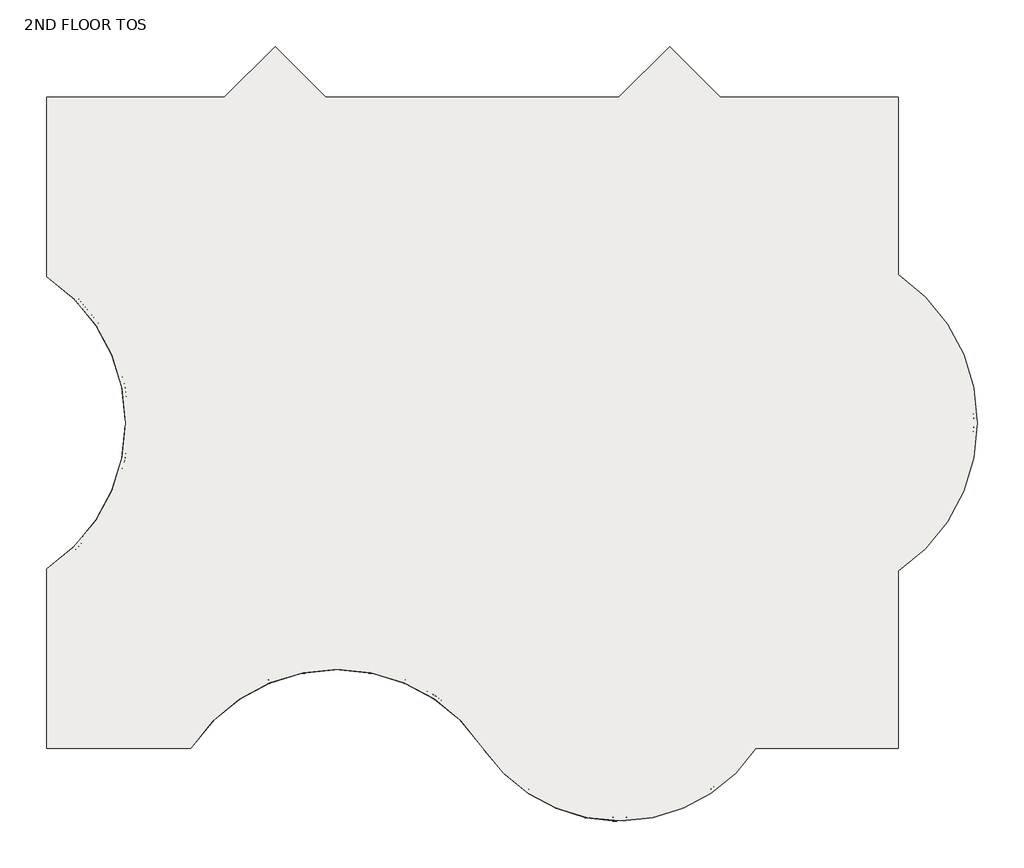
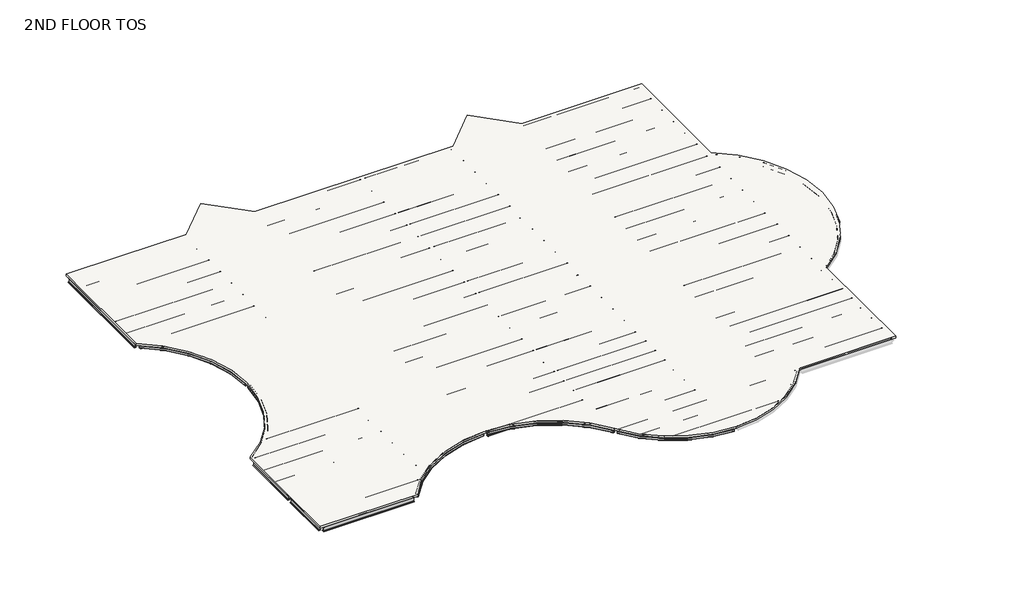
# One storey, part 1 of 2: 86 beams, 1 slab.
"""IFC4 building model written with IfcOpenShell, lengths in millimetres."""

from ifc_helpers import new_model, si_unit, frame, origin, place, context, project, spatial, polyline, circle_curve, transform, mapped, element, save
from ifc_brep_helpers import plane_surface, cylinder_surface, revolved_surface, advanced_brep
from components import m_hss_square_hss203_2x203_2x9_5_914ff4eb, m_hss_square_hss203_2x203_2x9_5_0e3d8e6e, m_hss_square_hss203_2x203_2x9_5_16dc1c03, m_hss_square_hss203_2x203_2x9_5_18346204, m_hss_square_hss203_2x203_2x9_5_d5f1e8c4, ub_universal_beams_ub254x102x28_4e7f3726, ub_universal_beams_ub305x165x40_c4d0385b, ub_universal_beams_ub305x165x40_d3abc31d, ub_universal_beams_ub305x165x40_0c73730f, ub_universal_beams_ub305x165x40_2a963f0c, ub_universal_beams_ub305x165x40_0a5f2f96, ub_universal_beams_ub305x165x40_d1f7c369, ub_universal_beams_ub305x165x40_83d7b7d5, ub_universal_beams_ub305x165x40_729a4ea5, ub_universal_beams_ub305x165x40_71dfa851, ub_universal_beams_ub305x165x40_619b5398, ub_universal_beams_ub305x165x40_c3492db1, ub_universal_beams_ub305x165x40_8f1c350d, ub_universal_beams_ub305x165x40_3afb5f90, ub_universal_beams_ub305x165x40_767d1929, ub_universal_beams_ub305x165x40_5941ca45, ub_universal_beams_ub356x171x51_ef72dcdd, ub_universal_beams_ub356x171x51_7f80702c, ub_universal_beams_ub356x171x51_dfc36663, ub_universal_beams_ub356x171x51_405a853e, ub_universal_beams_ub356x171x51_e47b7055, ub_universal_beams_ub356x171x51_e97f8d2e, ub_universal_beams_ub356x171x51_11d6b780, ub_universal_beams_ub356x171x51_76b2d20b, ub_universal_beams_ub356x171x51_145ecd4b, ub_universal_beams_ub356x171x51_c7dff8d2, ub_universal_beams_ub356x171x51_834c6e34, ub_universal_beams_ub356x171x51_a38b99de, ub_universal_beams_ub356x171x51_d8f4cdde, ub_universal_beams_ub356x171x51_8094f821, ub_universal_beams_ub356x171x51_e661f2e4, ub_universal_beams_ub356x171x51_3ee91673, ub_universal_beams_ub356x171x51_a871b283, ub_universal_beams_ub356x171x51_741bae58

model = new_model("IFC4")

# Units and contexts
model_context = context("Model", 3, world=origin())
ifc_project = project(units=[si_unit("LENGTHUNIT", "METRE", prefix="MILLI")], contexts=[model_context])

# Site, building, storey
site = spatial("IfcSite", under=ifc_project)
building = spatial("IfcBuilding", under=site)
storey = spatial("IfcBuildingStorey", under=building, Name="2ND FLOOR TOS", Elevation=8991.6)

# Beams
placement = place(None, origin())
m_hss_square_hss203_2x203_2x9_5_shape = m_hss_square_hss203_2x203_2x9_5_914ff4eb(model_context)
element("IfcBeam", 1, ObjectType="M_HSS Square : HSS203.2X203.2X9.5", at=placement, inside=storey, context=model_context, shape_type="MappedRepresentation", body=[
    mapped(m_hss_square_hss203_2x203_2x9_5_shape, transform((22710.575, 155.575, 8890.1), x_axis=(-0.552849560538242, 0.8332810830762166, 0.0), y_axis=(-0.8332810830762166, -0.552849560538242, 0.0), z_axis=(0.0, 0.0, 1.0))),
])
m_hss_square_hss203_2x203_2x9_5_2_shape = m_hss_square_hss203_2x203_2x9_5_0e3d8e6e(model_context)
element("IfcBeam", 2, ObjectType="M_HSS Square : HSS203.2X203.2X9.5", at=placement, inside=storey, context=model_context, shape_type="MappedRepresentation", body=[
    mapped(m_hss_square_hss203_2x203_2x9_5_2_shape, transform((155.575, 9299.575, 8890.1), x_axis=(0.8332810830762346, 0.5528495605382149, 0.0), y_axis=(-0.5528495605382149, 0.8332810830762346, 0.0), z_axis=(0.0, 0.0, 1.0))),
])
m_hss_square_hss203_2x203_2x9_5_3_shape = m_hss_square_hss203_2x203_2x9_5_16dc1c03(model_context)
element("IfcBeam", 3, ObjectType="M_HSS Square : HSS203.2X203.2X9.5", at=placement, inside=storey, context=model_context, shape_type="MappedRepresentation", body=[
    mapped(m_hss_square_hss203_2x203_2x9_5_3_shape, transform((155.575, 24539.575, 8890.1), x_axis=(0.8332810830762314, -0.5528495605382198, 0.0), y_axis=(0.5528495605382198, 0.8332810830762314, 0.0), z_axis=(0.0, 0.0, 1.0))),
])
m_hss_square_hss203_2x203_2x9_5_4_shape = m_hss_square_hss203_2x203_2x9_5_18346204(model_context)
element("IfcBeam", 4, ObjectType="M_HSS Square : HSS203.2X203.2X9.5", at=placement, inside=storey, context=model_context, shape_type="MappedRepresentation", body=[
    mapped(m_hss_square_hss203_2x203_2x9_5_4_shape, transform((29734.7266693, -3601.398624, 8890.1), x_axis=(-0.9999968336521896, -0.0025164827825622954, 0.0), y_axis=(0.0025164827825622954, -0.9999968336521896, 0.0), z_axis=(0.0, 0.0, 1.0))),
])
m_hss_square_hss203_2x203_2x9_5_5_shape = m_hss_square_hss203_2x203_2x9_5_d5f1e8c4(model_context)
element("IfcBeam", 5, ObjectType="M_HSS Square : HSS203.2X203.2X9.5", at=placement, inside=storey, context=model_context, shape_type="MappedRepresentation", body=[
    mapped(m_hss_square_hss203_2x203_2x9_5_5_shape, transform((15096.4572854, 4244.5731081, 8890.1), x_axis=(-0.9999997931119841, 0.0006432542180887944, 0.0), y_axis=(-0.0006432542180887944, -0.9999997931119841, 0.0), z_axis=(0.0, 0.0, 1.0))),
])
ub_universal_beams_ub254x102x28_shape = ub_universal_beams_ub254x102x28_4e7f3726(model_context)
element("IfcBeam", 6, ObjectType="UB-Universal Beams : UB254x102x28", at=placement, inside=storey, context=model_context, shape_type="MappedRepresentation", body=[
    mapped(ub_universal_beams_ub254x102x28_shape, transform((9299.575, 3210.915913, 8861.4), x_axis=(0.0, -1.0, 0.0), y_axis=(1.0, 0.0, 0.0), z_axis=(0.0, 0.0, 1.0))),
])
ub_universal_beams_ub305x165x40_shape = ub_universal_beams_ub305x165x40_c4d0385b(model_context)
element("IfcBeam", 7, ObjectType="UB-Universal Beams : UB305x165x40", at=placement, inside=storey, context=model_context, shape_type="MappedRepresentation", body=[
    mapped(ub_universal_beams_ub305x165x40_shape, transform((4727.575, 30635.575, 8839.9), x_axis=(1.0, 0.0, 0.0), y_axis=(0.0, 1.0, 0.0), z_axis=(0.0, 0.0, 1.0))),
])
element("IfcBeam", 8, ObjectType="UB-Universal Beams : UB305x165x40", at=placement, inside=storey, context=model_context, shape_type="MappedRepresentation", body=[
    mapped(ub_universal_beams_ub305x165x40_shape, transform((4727.575, 29111.575, 8839.9), x_axis=(1.0, 0.0, 0.0), y_axis=(0.0, 1.0, 0.0), z_axis=(0.0, 0.0, 1.0))),
])
element("IfcBeam", 9, ObjectType="UB-Universal Beams : UB305x165x40", at=placement, inside=storey, context=model_context, shape_type="MappedRepresentation", body=[
    mapped(ub_universal_beams_ub305x165x40_shape, transform((4727.575, 27587.575, 8839.9), x_axis=(1.0, 0.0, 0.0), y_axis=(0.0, 1.0, 0.0), z_axis=(0.0, 0.0, 1.0))),
])
element("IfcBeam", 10, ObjectType="UB-Universal Beams : UB305x165x40", at=placement, inside=storey, context=model_context, shape_type="MappedRepresentation", body=[
    mapped(ub_universal_beams_ub305x165x40_shape, transform((4727.575, 26063.575, 8839.9), x_axis=(1.0, 0.0, 0.0), y_axis=(0.0, 1.0, 0.0), z_axis=(0.0, 0.0, 1.0))),
])
element("IfcBeam", 11, ObjectType="UB-Universal Beams : UB305x165x40", at=placement, inside=storey, context=model_context, shape_type="MappedRepresentation", body=[
    mapped(ub_universal_beams_ub305x165x40_shape, transform((4727.575, 4727.575, 8839.9), x_axis=(-1.0, 0.0, 0.0), y_axis=(0.0, -1.0, 0.0), z_axis=(0.0, 0.0, 1.0))),
])
element("IfcBeam", 12, ObjectType="UB-Universal Beams : UB305x165x40", at=placement, inside=storey, context=model_context, shape_type="MappedRepresentation", body=[
    mapped(ub_universal_beams_ub305x165x40_shape, transform((4727.575, 6251.575, 8839.9), x_axis=(-1.0, 0.0, 0.0), y_axis=(0.0, -1.0, 0.0), z_axis=(0.0, 0.0, 1.0))),
])
element("IfcBeam", 13, ObjectType="UB-Universal Beams : UB305x165x40", at=placement, inside=storey, context=model_context, shape_type="MappedRepresentation", body=[
    mapped(ub_universal_beams_ub305x165x40_shape, transform((4727.575, 7775.575, 8839.9), x_axis=(-1.0, 0.0, 0.0), y_axis=(0.0, -1.0, 0.0), z_axis=(0.0, 0.0, 1.0))),
])
ub_universal_beams_ub305x165x40_2_shape = ub_universal_beams_ub305x165x40_d3abc31d(model_context)
element("IfcBeam", 14, ObjectType="UB-Universal Beams : UB305x165x40", at=placement, inside=storey, context=model_context, shape_type="MappedRepresentation", body=[
    mapped(ub_universal_beams_ub305x165x40_2_shape, transform((11885.575, 28938.325, 8839.9), x_axis=(1.0, 0.0, 0.0), y_axis=(0.0, 1.0, 0.0), z_axis=(0.0, 0.0, 1.0))),
])
element("IfcBeam", 15, ObjectType="UB-Universal Beams : UB305x165x40", at=placement, inside=storey, context=model_context, shape_type="MappedRepresentation", body=[
    mapped(ub_universal_beams_ub305x165x40_2_shape, transform((11885.575, 27472.075, 8839.9), x_axis=(1.0, 0.0, 0.0), y_axis=(0.0, 1.0, 0.0), z_axis=(0.0, 0.0, 1.0))),
])
element("IfcBeam", 16, ObjectType="UB-Universal Beams : UB305x165x40", at=placement, inside=storey, context=model_context, shape_type="MappedRepresentation", body=[
    mapped(ub_universal_beams_ub305x165x40_2_shape, transform((11885.575, 26005.825, 8839.9), x_axis=(1.0, 0.0, 0.0), y_axis=(0.0, 1.0, 0.0), z_axis=(0.0, 0.0, 1.0))),
])
element("IfcBeam", 17, ObjectType="UB-Universal Beams : UB305x165x40", at=placement, inside=storey, context=model_context, shape_type="MappedRepresentation", body=[
    mapped(ub_universal_beams_ub305x165x40_2_shape, transform((11885.575, 23015.575, 8839.9), x_axis=(1.0, 0.0, 0.0), y_axis=(0.0, 1.0, 0.0), z_axis=(0.0, 0.0, 1.0))),
])
element("IfcBeam", 18, ObjectType="UB-Universal Beams : UB305x165x40", at=placement, inside=storey, context=model_context, shape_type="MappedRepresentation", body=[
    mapped(ub_universal_beams_ub305x165x40_2_shape, transform((11885.575, 21491.575, 8839.9), x_axis=(1.0, 0.0, 0.0), y_axis=(0.0, 1.0, 0.0), z_axis=(0.0, 0.0, 1.0))),
])
element("IfcBeam", 19, ObjectType="UB-Universal Beams : UB305x165x40", at=placement, inside=storey, context=model_context, shape_type="MappedRepresentation", body=[
    mapped(ub_universal_beams_ub305x165x40_2_shape, transform((11885.575, 19967.575, 8839.9), x_axis=(1.0, 0.0, 0.0), y_axis=(0.0, 1.0, 0.0), z_axis=(0.0, 0.0, 1.0))),
])
element("IfcBeam", 20, ObjectType="UB-Universal Beams : UB305x165x40", at=placement, inside=storey, context=model_context, shape_type="MappedRepresentation", body=[
    mapped(ub_universal_beams_ub305x165x40_2_shape, transform((11885.575, 18443.575, 8839.9), x_axis=(1.0, 0.0, 0.0), y_axis=(0.0, 1.0, 0.0), z_axis=(0.0, 0.0, 1.0))),
])
element("IfcBeam", 21, ObjectType="UB-Universal Beams : UB305x165x40", at=placement, inside=storey, context=model_context, shape_type="MappedRepresentation", body=[
    mapped(ub_universal_beams_ub305x165x40_2_shape, transform((11885.575, 15395.575, 8839.9), x_axis=(1.0, 0.0, 0.0), y_axis=(0.0, 1.0, 0.0), z_axis=(0.0, 0.0, 1.0))),
])
element("IfcBeam", 22, ObjectType="UB-Universal Beams : UB305x165x40", at=placement, inside=storey, context=model_context, shape_type="MappedRepresentation", body=[
    mapped(ub_universal_beams_ub305x165x40_2_shape, transform((11885.575, 13871.575, 8839.9), x_axis=(1.0, 0.0, 0.0), y_axis=(0.0, 1.0, 0.0), z_axis=(0.0, 0.0, 1.0))),
])
element("IfcBeam", 23, ObjectType="UB-Universal Beams : UB305x165x40", at=placement, inside=storey, context=model_context, shape_type="MappedRepresentation", body=[
    mapped(ub_universal_beams_ub305x165x40_2_shape, transform((11885.575, 12347.575, 8839.9), x_axis=(1.0, 0.0, 0.0), y_axis=(0.0, 1.0, 0.0), z_axis=(0.0, 0.0, 1.0))),
])
element("IfcBeam", 24, ObjectType="UB-Universal Beams : UB305x165x40", at=placement, inside=storey, context=model_context, shape_type="MappedRepresentation", body=[
    mapped(ub_universal_beams_ub305x165x40_2_shape, transform((11885.575, 10823.575, 8839.9), x_axis=(1.0, 0.0, 0.0), y_axis=(0.0, 1.0, 0.0), z_axis=(0.0, 0.0, 1.0))),
])
element("IfcBeam", 25, ObjectType="UB-Universal Beams : UB305x165x40", at=placement, inside=storey, context=model_context, shape_type="MappedRepresentation", body=[
    mapped(ub_universal_beams_ub305x165x40_2_shape, transform((11885.575, 5026.1840956, 8839.9), x_axis=(-1.0, 0.0, 0.0), y_axis=(0.0, -1.0, 0.0), z_axis=(0.0, 0.0, 1.0))),
])
element("IfcBeam", 26, ObjectType="UB-Universal Beams : UB305x165x40", at=placement, inside=storey, context=model_context, shape_type="MappedRepresentation", body=[
    mapped(ub_universal_beams_ub305x165x40_2_shape, transform((11885.575, 6450.6477304, 8839.9), x_axis=(-1.0, 0.0, 0.0), y_axis=(0.0, -1.0, 0.0), z_axis=(0.0, 0.0, 1.0))),
])
element("IfcBeam", 27, ObjectType="UB-Universal Beams : UB305x165x40", at=placement, inside=storey, context=model_context, shape_type="MappedRepresentation", body=[
    mapped(ub_universal_beams_ub305x165x40_2_shape, transform((11885.575, 7875.1113652, 8839.9), x_axis=(-1.0, 0.0, 0.0), y_axis=(0.0, -1.0, 0.0), z_axis=(0.0, 0.0, 1.0))),
])
ub_universal_beams_ub305x165x40_3_shape = ub_universal_beams_ub305x165x40_0c73730f(model_context)
element("IfcBeam", 28, ObjectType="UB-Universal Beams : UB305x165x40", at=placement, inside=storey, context=model_context, shape_type="MappedRepresentation", body=[
    mapped(ub_universal_beams_ub305x165x40_3_shape, transform((18591.075, 5492.5943214, 8839.9), x_axis=(-1.0, 0.0, 0.0), y_axis=(0.0, -1.0, 0.0), z_axis=(0.0, 0.0, 1.0))),
])
element("IfcBeam", 29, ObjectType="UB-Universal Beams : UB305x165x40", at=placement, inside=storey, context=model_context, shape_type="MappedRepresentation", body=[
    mapped(ub_universal_beams_ub305x165x40_3_shape, transform((18591.075, 6761.5878809, 8839.9), x_axis=(-1.0, 0.0, 0.0), y_axis=(0.0, -1.0, 0.0), z_axis=(0.0, 0.0, 1.0))),
])
element("IfcBeam", 30, ObjectType="UB-Universal Beams : UB305x165x40", at=placement, inside=storey, context=model_context, shape_type="MappedRepresentation", body=[
    mapped(ub_universal_beams_ub305x165x40_3_shape, transform((18591.075, 8030.5814405, 8839.9), x_axis=(-1.0, 0.0, 0.0), y_axis=(0.0, -1.0, 0.0), z_axis=(0.0, 0.0, 1.0))),
])
element("IfcBeam", 31, ObjectType="UB-Universal Beams : UB305x165x40", at=placement, inside=storey, context=model_context, shape_type="MappedRepresentation", body=[
    mapped(ub_universal_beams_ub305x165x40_3_shape, transform((18591.075, 15395.575, 8839.9), x_axis=(1.0, 0.0, 0.0), y_axis=(0.0, 1.0, 0.0), z_axis=(0.0, 0.0, 1.0))),
])
element("IfcBeam", 32, ObjectType="UB-Universal Beams : UB305x165x40", at=placement, inside=storey, context=model_context, shape_type="MappedRepresentation", body=[
    mapped(ub_universal_beams_ub305x165x40_3_shape, transform((18591.075, 13871.575, 8839.9), x_axis=(1.0, 0.0, 0.0), y_axis=(0.0, 1.0, 0.0), z_axis=(0.0, 0.0, 1.0))),
])
element("IfcBeam", 33, ObjectType="UB-Universal Beams : UB305x165x40", at=placement, inside=storey, context=model_context, shape_type="MappedRepresentation", body=[
    mapped(ub_universal_beams_ub305x165x40_3_shape, transform((18591.075, 12347.575, 8839.9), x_axis=(1.0, 0.0, 0.0), y_axis=(0.0, 1.0, 0.0), z_axis=(0.0, 0.0, 1.0))),
])
element("IfcBeam", 34, ObjectType="UB-Universal Beams : UB305x165x40", at=placement, inside=storey, context=model_context, shape_type="MappedRepresentation", body=[
    mapped(ub_universal_beams_ub305x165x40_3_shape, transform((18591.075, 10823.575, 8839.9), x_axis=(1.0, 0.0, 0.0), y_axis=(0.0, 1.0, 0.0), z_axis=(0.0, 0.0, 1.0))),
])
ub_universal_beams_ub305x165x40_4_shape = ub_universal_beams_ub305x165x40_2a963f0c(model_context)
element("IfcBeam", 35, ObjectType="UB-Universal Beams : UB305x165x40", at=placement, inside=storey, context=model_context, shape_type="MappedRepresentation", body=[
    mapped(ub_universal_beams_ub305x165x40_4_shape, transform((26211.075, 15395.575, 8839.9), x_axis=(1.0, 0.0, 0.0), y_axis=(0.0, 1.0, 0.0), z_axis=(0.0, 0.0, 1.0))),
])
element("IfcBeam", 36, ObjectType="UB-Universal Beams : UB305x165x40", at=placement, inside=storey, context=model_context, shape_type="MappedRepresentation", body=[
    mapped(ub_universal_beams_ub305x165x40_4_shape, transform((26211.075, 13871.575, 8839.9), x_axis=(1.0, 0.0, 0.0), y_axis=(0.0, 1.0, 0.0), z_axis=(0.0, 0.0, 1.0))),
])
element("IfcBeam", 37, ObjectType="UB-Universal Beams : UB305x165x40", at=placement, inside=storey, context=model_context, shape_type="MappedRepresentation", body=[
    mapped(ub_universal_beams_ub305x165x40_4_shape, transform((26211.075, 12347.575, 8839.9), x_axis=(1.0, 0.0, 0.0), y_axis=(0.0, 1.0, 0.0), z_axis=(0.0, 0.0, 1.0))),
])
element("IfcBeam", 38, ObjectType="UB-Universal Beams : UB305x165x40", at=placement, inside=storey, context=model_context, shape_type="MappedRepresentation", body=[
    mapped(ub_universal_beams_ub305x165x40_4_shape, transform((26211.075, 10823.575, 8839.9), x_axis=(1.0, 0.0, 0.0), y_axis=(0.0, 1.0, 0.0), z_axis=(0.0, 0.0, 1.0))),
])
element("IfcBeam", 39, ObjectType="UB-Universal Beams : UB305x165x40", at=placement, inside=storey, context=model_context, shape_type="MappedRepresentation", body=[
    mapped(ub_universal_beams_ub305x165x40_4_shape, transform((26211.075, 5508.325, 8839.9), x_axis=(-1.0, 0.0, 0.0), y_axis=(0.0, -1.0, 0.0), z_axis=(0.0, 0.0, 1.0))),
])
element("IfcBeam", 40, ObjectType="UB-Universal Beams : UB305x165x40", at=placement, inside=storey, context=model_context, shape_type="MappedRepresentation", body=[
    mapped(ub_universal_beams_ub305x165x40_4_shape, transform((26211.075, 6772.075, 8839.9), x_axis=(-1.0, 0.0, 0.0), y_axis=(0.0, -1.0, 0.0), z_axis=(0.0, 0.0, 1.0))),
])
element("IfcBeam", 41, ObjectType="UB-Universal Beams : UB305x165x40", at=placement, inside=storey, context=model_context, shape_type="MappedRepresentation", body=[
    mapped(ub_universal_beams_ub305x165x40_4_shape, transform((26211.075, 8035.825, 8839.9), x_axis=(-1.0, 0.0, 0.0), y_axis=(0.0, -1.0, 0.0), z_axis=(0.0, 0.0, 1.0))),
])
element("IfcBeam", 42, ObjectType="UB-Universal Beams : UB305x165x40", at=placement, inside=storey, context=model_context, shape_type="MappedRepresentation", body=[
    mapped(ub_universal_beams_ub305x165x40_4_shape, transform((26211.075, 1518.575, 8839.9), x_axis=(-1.0, 0.0, 0.0), y_axis=(0.0, -1.0, 0.0), z_axis=(0.0, 0.0, 1.0))),
])
element("IfcBeam", 43, ObjectType="UB-Universal Beams : UB305x165x40", at=placement, inside=storey, context=model_context, shape_type="MappedRepresentation", body=[
    mapped(ub_universal_beams_ub305x165x40_4_shape, transform((26211.075, 2881.575, 8839.9), x_axis=(-1.0, 0.0, 0.0), y_axis=(0.0, -1.0, 0.0), z_axis=(0.0, 0.0, 1.0))),
])
ub_universal_beams_ub305x165x40_5_shape = ub_universal_beams_ub305x165x40_0a5f2f96(model_context)
element("IfcBeam", 44, ObjectType="UB-Universal Beams : UB305x165x40", at=placement, inside=storey, context=model_context, shape_type="MappedRepresentation", body=[
    mapped(ub_universal_beams_ub305x165x40_5_shape, transform((29713.575, -2349.0918253, 8839.9), x_axis=(-1.0, 0.0, 0.0), y_axis=(0.0, -1.0, 0.0), z_axis=(0.0, 0.0, 1.0))),
])
ub_universal_beams_ub305x165x40_6_shape = ub_universal_beams_ub305x165x40_d1f7c369(model_context)
element("IfcBeam", 45, ObjectType="UB-Universal Beams : UB305x165x40", at=placement, inside=storey, context=model_context, shape_type="MappedRepresentation", body=[
    mapped(ub_universal_beams_ub305x165x40_6_shape, transform((29713.575, -1096.7584126, 8839.9), x_axis=(-1.0, 0.0, 0.0), y_axis=(0.0, -1.0, 0.0), z_axis=(0.0, 0.0, 1.0))),
])
ub_universal_beams_ub305x165x40_7_shape = ub_universal_beams_ub305x165x40_83d7b7d5(model_context)
element("IfcBeam", 46, ObjectType="UB-Universal Beams : UB305x165x40", at=placement, inside=storey, context=model_context, shape_type="MappedRepresentation", body=[
    mapped(ub_universal_beams_ub305x165x40_7_shape, transform((22157.3041106, 1518.575, 8839.9), x_axis=(-1.0, 0.0, 0.0), y_axis=(0.0, -1.0, 0.0), z_axis=(0.0, 0.0, 1.0))),
])
ub_universal_beams_ub305x165x40_8_shape = ub_universal_beams_ub305x165x40_729a4ea5(model_context)
element("IfcBeam", 47, ObjectType="UB-Universal Beams : UB305x165x40", at=placement, inside=storey, context=model_context, shape_type="MappedRepresentation", body=[
    mapped(ub_universal_beams_ub305x165x40_8_shape, transform((21302.1545844, 2881.575, 8839.9), x_axis=(-1.0, 0.0, 0.0), y_axis=(0.0, -1.0, 0.0), z_axis=(0.0, 0.0, 1.0))),
])
ub_universal_beams_ub305x165x40_9_shape = ub_universal_beams_ub305x165x40_71dfa851(model_context)
element("IfcBeam", 48, ObjectType="UB-Universal Beams : UB305x165x40", at=placement, inside=storey, context=model_context, shape_type="MappedRepresentation", body=[
    mapped(ub_universal_beams_ub305x165x40_9_shape, transform((10511.0323166, 3601.7204608, 8839.9), x_axis=(-1.0, 0.0, 0.0), y_axis=(0.0, -1.0, 0.0), z_axis=(0.0, 0.0, 1.0))),
])
ub_universal_beams_ub305x165x40_10_shape = ub_universal_beams_ub305x165x40_619b5398(model_context)
element("IfcBeam", 49, ObjectType="UB-Universal Beams : UB305x165x40", at=placement, inside=storey, context=model_context, shape_type="MappedRepresentation", body=[
    mapped(ub_universal_beams_ub305x165x40_10_shape, transform((4447.6838282, 1679.575, 8839.9), x_axis=(-1.0, 0.0, 0.0), y_axis=(0.0, -1.0, 0.0), z_axis=(0.0, 0.0, 1.0))),
])
ub_universal_beams_ub305x165x40_11_shape = ub_universal_beams_ub305x165x40_c3492db1(model_context)
element("IfcBeam", 50, ObjectType="UB-Universal Beams : UB305x165x40", at=placement, inside=storey, context=model_context, shape_type="MappedRepresentation", body=[
    mapped(ub_universal_beams_ub305x165x40_11_shape, transform((4727.575, 3203.575, 8839.9), x_axis=(-1.0, 0.0, 0.0), y_axis=(0.0, -1.0, 0.0), z_axis=(0.0, 0.0, 1.0))),
])
ub_universal_beams_ub305x165x40_12_shape = ub_universal_beams_ub305x165x40_8f1c350d(model_context)
element("IfcBeam", 51, ObjectType="UB-Universal Beams : UB305x165x40", at=placement, inside=storey, context=model_context, shape_type="MappedRepresentation", body=[
    mapped(ub_universal_beams_ub305x165x40_12_shape, transform((6708.1318611, 15395.575, 8839.9), x_axis=(1.0, 0.0, 0.0), y_axis=(0.0, 1.0, 0.0), z_axis=(0.0, 0.0, 1.0))),
])
element("IfcBeam", 52, ObjectType="UB-Universal Beams : UB305x165x40", at=placement, inside=storey, context=model_context, shape_type="MappedRepresentation", body=[
    mapped(ub_universal_beams_ub305x165x40_12_shape, transform((6708.1318611, 18443.575, 8839.9), x_axis=(1.0, 0.0, 0.0), y_axis=(0.0, 1.0, 0.0), z_axis=(0.0, 0.0, 1.0))),
])
ub_universal_beams_ub305x165x40_13_shape = ub_universal_beams_ub305x165x40_3afb5f90(model_context)
element("IfcBeam", 53, ObjectType="UB-Universal Beams : UB305x165x40", at=placement, inside=storey, context=model_context, shape_type="MappedRepresentation", body=[
    mapped(ub_universal_beams_ub305x165x40_13_shape, transform((6510.6153272, 13871.575, 8839.9), x_axis=(1.0, 0.0, 0.0), y_axis=(0.0, 1.0, 0.0), z_axis=(0.0, 0.0, 1.0))),
])
element("IfcBeam", 54, ObjectType="UB-Universal Beams : UB305x165x40", at=placement, inside=storey, context=model_context, shape_type="MappedRepresentation", body=[
    mapped(ub_universal_beams_ub305x165x40_13_shape, transform((6510.6153272, 19967.575, 8839.9), x_axis=(1.0, 0.0, 0.0), y_axis=(0.0, 1.0, 0.0), z_axis=(0.0, 0.0, 1.0))),
])
ub_universal_beams_ub305x165x40_14_shape = ub_universal_beams_ub305x165x40_767d1929(model_context)
element("IfcBeam", 55, ObjectType="UB-Universal Beams : UB305x165x40", at=placement, inside=storey, context=model_context, shape_type="MappedRepresentation", body=[
    mapped(ub_universal_beams_ub305x165x40_14_shape, transform((6159.5874928, 12347.575, 8839.9), x_axis=(1.0, 0.0, 0.0), y_axis=(0.0, 1.0, 0.0), z_axis=(0.0, 0.0, 1.0))),
])
element("IfcBeam", 56, ObjectType="UB-Universal Beams : UB305x165x40", at=placement, inside=storey, context=model_context, shape_type="MappedRepresentation", body=[
    mapped(ub_universal_beams_ub305x165x40_14_shape, transform((6159.5874928, 21491.575, 8839.9), x_axis=(1.0, 0.0, 0.0), y_axis=(0.0, 1.0, 0.0), z_axis=(0.0, 0.0, 1.0))),
])
ub_universal_beams_ub305x165x40_15_shape = ub_universal_beams_ub305x165x40_5941ca45(model_context)
element("IfcBeam", 57, ObjectType="UB-Universal Beams : UB305x165x40", at=placement, inside=storey, context=model_context, shape_type="MappedRepresentation", body=[
    mapped(ub_universal_beams_ub305x165x40_15_shape, transform((5607.9405309, 10823.575, 8839.9), x_axis=(1.0, 0.0, 0.0), y_axis=(0.0, 1.0, 0.0), z_axis=(0.0, 0.0, 1.0))),
])
element("IfcBeam", 58, ObjectType="UB-Universal Beams : UB305x165x40", at=placement, inside=storey, context=model_context, shape_type="MappedRepresentation", body=[
    mapped(ub_universal_beams_ub305x165x40_15_shape, transform((5607.9405309, 23015.575, 8839.9), x_axis=(1.0, 0.0, 0.0), y_axis=(0.0, 1.0, 0.0), z_axis=(0.0, 0.0, 1.0))),
])
ub_universal_beams_ub356x171x51_shape = ub_universal_beams_ub356x171x51_ef72dcdd(model_context)
element("IfcBeam", 59, ObjectType="UB-Universal Beams : UB356x171x51", at=placement, inside=storey, context=model_context, shape_type="MappedRepresentation", body=[
    mapped(ub_universal_beams_ub356x171x51_shape, transform((9299.575, 6772.075, 8814.1), x_axis=(0.0, -1.0, 0.0), y_axis=(1.0, 0.0, 0.0), z_axis=(0.0, 0.0, 1.0))),
])
element("IfcBeam", 60, ObjectType="UB-Universal Beams : UB356x171x51", at=placement, inside=storey, context=model_context, shape_type="MappedRepresentation", body=[
    mapped(ub_universal_beams_ub356x171x51_shape, transform((29711.575, 6772.075, 8814.1), x_axis=(0.0, 1.0, 0.0), y_axis=(-1.0, 0.0, 0.0), z_axis=(0.0, 0.0, 1.0))),
])
element("IfcBeam", 61, ObjectType="UB-Universal Beams : UB356x171x51", at=placement, inside=storey, context=model_context, shape_type="MappedRepresentation", body=[
    mapped(ub_universal_beams_ub356x171x51_shape, transform((22710.575, 6772.075, 8814.1), x_axis=(0.0, -1.0, 0.0), y_axis=(1.0, 0.0, 0.0), z_axis=(0.0, 0.0, 1.0))),
])
ub_universal_beams_ub356x171x51_2_shape = ub_universal_beams_ub356x171x51_7f80702c(model_context)
element("IfcBeam", 62, ObjectType="UB-Universal Beams : UB356x171x51", at=placement, inside=storey, context=model_context, shape_type="MappedRepresentation", body=[
    mapped(ub_universal_beams_ub356x171x51_2_shape, transform((3813.075, 155.575, 8814.1), x_axis=(-1.0, 0.0, 0.0), y_axis=(0.0, -1.0, 0.0), z_axis=(0.0, 0.0, 1.0))),
])
ub_universal_beams_ub356x171x51_3_shape = ub_universal_beams_ub356x171x51_dfc36663(model_context)
element("IfcBeam", 63, ObjectType="UB-Universal Beams : UB356x171x51", at=placement, inside=storey, context=model_context, shape_type="MappedRepresentation", body=[
    mapped(ub_universal_beams_ub356x171x51_3_shape, transform((155.575, 2200.075, 8814.1), x_axis=(0.0, 1.0, 0.0), y_axis=(-1.0, 0.0, 0.0), z_axis=(0.0, 0.0, 1.0))),
])
ub_universal_beams_ub356x171x51_4_shape = ub_universal_beams_ub356x171x51_405a853e(model_context)
element("IfcBeam", 64, ObjectType="UB-Universal Beams : UB356x171x51", at=placement, inside=storey, context=model_context, shape_type="MappedRepresentation", body=[
    mapped(ub_universal_beams_ub356x171x51_4_shape, transform((155.575, 6772.075, 8814.1), x_axis=(0.0, 1.0, 0.0), y_axis=(-1.0, 0.0, 0.0), z_axis=(0.0, 0.0, 1.0))),
])
ub_universal_beams_ub356x171x51_5_shape = ub_universal_beams_ub356x171x51_e47b7055(model_context)
element("IfcBeam", 65, ObjectType="UB-Universal Beams : UB356x171x51", at=placement, inside=storey, context=model_context, shape_type="MappedRepresentation", body=[
    mapped(ub_universal_beams_ub356x171x51_5_shape, transform((155.575, 29111.575, 8814.1), x_axis=(0.0, 1.0, 0.0), y_axis=(-1.0, 0.0, 0.0), z_axis=(0.0, 0.0, 1.0))),
])
ub_universal_beams_ub356x171x51_6_shape = ub_universal_beams_ub356x171x51_e97f8d2e(model_context)
element("IfcBeam", 66, ObjectType="UB-Universal Beams : UB356x171x51", at=placement, inside=storey, context=model_context, shape_type="MappedRepresentation", body=[
    mapped(ub_universal_beams_ub356x171x51_6_shape, transform((4727.575, 24539.575, 8814.1), x_axis=(1.0, 0.0, 0.0), y_axis=(0.0, 1.0, 0.0), z_axis=(0.0, 0.0, 1.0))),
])
ub_universal_beams_ub356x171x51_7_shape = ub_universal_beams_ub356x171x51_11d6b780(model_context)
element("IfcBeam", 67, ObjectType="UB-Universal Beams : UB356x171x51", at=placement, inside=storey, context=model_context, shape_type="MappedRepresentation", body=[
    mapped(ub_universal_beams_ub356x171x51_7_shape, transform((11885.575, 24539.575, 8814.1), x_axis=(1.0, 0.0, 0.0), y_axis=(0.0, 1.0, 0.0), z_axis=(0.0, 0.0, 1.0))),
])
element("IfcBeam", 68, ObjectType="UB-Universal Beams : UB356x171x51", at=placement, inside=storey, context=model_context, shape_type="MappedRepresentation", body=[
    mapped(ub_universal_beams_ub356x171x51_7_shape, transform((11885.575, 9299.575, 8814.1), x_axis=(-1.0, 0.0, 0.0), y_axis=(0.0, -1.0, 0.0), z_axis=(0.0, 0.0, 1.0))),
])
element("IfcBeam", 69, ObjectType="UB-Universal Beams : UB356x171x51", at=placement, inside=storey, context=model_context, shape_type="MappedRepresentation", body=[
    mapped(ub_universal_beams_ub356x171x51_7_shape, transform((11885.575, 16919.575, 8814.1), x_axis=(1.0, 0.0, 0.0), y_axis=(0.0, 1.0, 0.0), z_axis=(0.0, 0.0, 1.0))),
])
ub_universal_beams_ub356x171x51_8_shape = ub_universal_beams_ub356x171x51_76b2d20b(model_context)
element("IfcBeam", 70, ObjectType="UB-Universal Beams : UB356x171x51", at=placement, inside=storey, context=model_context, shape_type="MappedRepresentation", body=[
    mapped(ub_universal_beams_ub356x171x51_8_shape, transform((18591.075, 9299.575, 8814.1), x_axis=(-1.0, 0.0, 0.0), y_axis=(0.0, -1.0, 0.0), z_axis=(0.0, 0.0, 1.0))),
])
ub_universal_beams_ub356x171x51_9_shape = ub_universal_beams_ub356x171x51_145ecd4b(model_context)
element("IfcBeam", 71, ObjectType="UB-Universal Beams : UB356x171x51", at=placement, inside=storey, context=model_context, shape_type="MappedRepresentation", body=[
    mapped(ub_universal_beams_ub356x171x51_9_shape, transform((26211.075, 9299.575, 8814.1), x_axis=(-1.0, 0.0, 0.0), y_axis=(0.0, -1.0, 0.0), z_axis=(0.0, 0.0, 1.0))),
])
element("IfcBeam", 72, ObjectType="UB-Universal Beams : UB356x171x51", at=placement, inside=storey, context=model_context, shape_type="MappedRepresentation", body=[
    mapped(ub_universal_beams_ub356x171x51_9_shape, transform((26211.075, 4244.575, 8814.1), x_axis=(-1.0, 0.0, 0.0), y_axis=(0.0, -1.0, 0.0), z_axis=(0.0, 0.0, 1.0))),
])
ub_universal_beams_ub356x171x51_10_shape = ub_universal_beams_ub356x171x51_c7dff8d2(model_context)
element("IfcBeam", 73, ObjectType="UB-Universal Beams : UB356x171x51", at=placement, inside=storey, context=model_context, shape_type="MappedRepresentation", body=[
    mapped(ub_universal_beams_ub356x171x51_10_shape, transform((4727.575, 9299.575, 8814.1), x_axis=(-1.0, 0.0, 0.0), y_axis=(0.0, -1.0, 0.0), z_axis=(0.0, 0.0, 1.0))),
])
ub_universal_beams_ub356x171x51_11_shape = ub_universal_beams_ub356x171x51_834c6e34(model_context)
element("IfcBeam", 74, ObjectType="UB-Universal Beams : UB356x171x51", at=placement, inside=storey, context=model_context, shape_type="MappedRepresentation", body=[
    mapped(ub_universal_beams_ub356x171x51_11_shape, transform((14471.575, 6761.5878809, 8814.1), x_axis=(0.0, -1.0, 0.0), y_axis=(1.0, 0.0, 0.0), z_axis=(0.0, 0.0, 1.0))),
])
ub_universal_beams_ub356x171x51_12_shape = ub_universal_beams_ub356x171x51_a38b99de(model_context)
element("IfcBeam", 75, ObjectType="UB-Universal Beams : UB356x171x51", at=placement, inside=storey, context=model_context, shape_type="MappedRepresentation", body=[
    mapped(ub_universal_beams_ub356x171x51_12_shape, transform((9299.575, 13109.575, 8814.1), x_axis=(0.0, 1.0, 0.0), y_axis=(-1.0, 0.0, 0.0), z_axis=(0.0, 0.0, 1.0))),
])
element("IfcBeam", 76, ObjectType="UB-Universal Beams : UB356x171x51", at=placement, inside=storey, context=model_context, shape_type="MappedRepresentation", body=[
    mapped(ub_universal_beams_ub356x171x51_12_shape, transform((9299.575, 20729.575, 8814.1), x_axis=(0.0, 1.0, 0.0), y_axis=(-1.0, 0.0, 0.0), z_axis=(0.0, 0.0, 1.0))),
])
element("IfcBeam", 77, ObjectType="UB-Universal Beams : UB356x171x51", at=placement, inside=storey, context=model_context, shape_type="MappedRepresentation", body=[
    mapped(ub_universal_beams_ub356x171x51_12_shape, transform((14471.575, 20729.575, 8814.1), x_axis=(0.0, -1.0, 0.0), y_axis=(1.0, 0.0, 0.0), z_axis=(0.0, 0.0, 1.0))),
])
element("IfcBeam", 78, ObjectType="UB-Universal Beams : UB356x171x51", at=placement, inside=storey, context=model_context, shape_type="MappedRepresentation", body=[
    mapped(ub_universal_beams_ub356x171x51_12_shape, transform((14471.575, 13109.575, 8814.1), x_axis=(0.0, -1.0, 0.0), y_axis=(1.0, 0.0, 0.0), z_axis=(0.0, 0.0, 1.0))),
])
element("IfcBeam", 79, ObjectType="UB-Universal Beams : UB356x171x51", at=placement, inside=storey, context=model_context, shape_type="MappedRepresentation", body=[
    mapped(ub_universal_beams_ub356x171x51_12_shape, transform((22710.575, 13109.575, 8814.1), x_axis=(0.0, -1.0, 0.0), y_axis=(1.0, 0.0, 0.0), z_axis=(0.0, 0.0, 1.0))),
])
element("IfcBeam", 80, ObjectType="UB-Universal Beams : UB356x171x51", at=placement, inside=storey, context=model_context, shape_type="MappedRepresentation", body=[
    mapped(ub_universal_beams_ub356x171x51_12_shape, transform((29711.575, 13109.575, 8814.1), x_axis=(0.0, 1.0, 0.0), y_axis=(-1.0, 0.0, 0.0), z_axis=(0.0, 0.0, 1.0))),
])
ub_universal_beams_ub356x171x51_13_shape = ub_universal_beams_ub356x171x51_d8f4cdde(model_context)
element("IfcBeam", 81, ObjectType="UB-Universal Beams : UB356x171x51", at=placement, inside=storey, context=model_context, shape_type="MappedRepresentation", body=[
    mapped(ub_universal_beams_ub356x171x51_13_shape, transform((9299.575, 29111.575, 8814.1), x_axis=(0.0, 1.0, 0.0), y_axis=(-1.0, 0.0, 0.0), z_axis=(0.0, 0.0, 1.0))),
])
ub_universal_beams_ub356x171x51_14_shape = ub_universal_beams_ub356x171x51_8094f821(model_context)
element("IfcBeam", 82, ObjectType="UB-Universal Beams : UB356x171x51", at=placement, inside=storey, context=model_context, shape_type="MappedRepresentation", body=[
    mapped(ub_universal_beams_ub356x171x51_14_shape, transform((6772.075, 16919.575, 8814.1), x_axis=(1.0, 0.0, 0.0), y_axis=(0.0, 1.0, 0.0), z_axis=(0.0, 0.0, 1.0))),
])
ub_universal_beams_ub356x171x51_15_shape = ub_universal_beams_ub356x171x51_e661f2e4(model_context)
element("IfcBeam", 83, ObjectType="UB-Universal Beams : UB356x171x51", at=placement, inside=storey, context=model_context, shape_type="MappedRepresentation", body=[
    mapped(ub_universal_beams_ub356x171x51_15_shape, transform((29713.575, 155.575, 8814.1), x_axis=(-1.0, 0.0, 0.0), y_axis=(0.0, -1.0, 0.0), z_axis=(0.0, 0.0, 1.0))),
])
ub_universal_beams_ub356x171x51_16_shape = ub_universal_beams_ub356x171x51_3ee91673(model_context)
element("IfcBeam", 84, ObjectType="UB-Universal Beams : UB356x171x51", at=placement, inside=storey, context=model_context, shape_type="MappedRepresentation", body=[
    mapped(ub_universal_beams_ub356x171x51_16_shape, transform((18900.575, 4244.575, 8814.1), x_axis=(-1.0, 0.0, 0.0), y_axis=(0.0, -1.0, 0.0), z_axis=(0.0, 0.0, 1.0))),
])
ub_universal_beams_ub356x171x51_17_shape = ub_universal_beams_ub356x171x51_a871b283(model_context)
element("IfcBeam", 85, ObjectType="UB-Universal Beams : UB356x171x51", at=placement, inside=storey, context=model_context, shape_type="MappedRepresentation", body=[
    mapped(ub_universal_beams_ub356x171x51_17_shape, transform((22710.575, 2200.075, 8814.1), x_axis=(0.0, -1.0, 0.0), y_axis=(1.0, 0.0, 0.0), z_axis=(0.0, 0.0, 1.0))),
])
ub_universal_beams_ub356x171x51_18_shape = ub_universal_beams_ub356x171x51_741bae58(model_context)
element("IfcBeam", 86, ObjectType="UB-Universal Beams : UB356x171x51", at=placement, inside=storey, context=model_context, shape_type="MappedRepresentation", body=[
    mapped(ub_universal_beams_ub356x171x51_18_shape, transform((29711.575, 2200.075, 8814.1), x_axis=(0.0, -1.0, 0.0), y_axis=(1.0, 0.0, 0.0), z_axis=(0.0, 0.0, 1.0))),
])

# Slab
element("IfcSlab", 87, ObjectType="152mm Concrete With 50mm Metal Deck", at=placement, inside=storey, context=model_context, shape_type="AdvancedBrep", body=[
    advanced_brep(
    [(69.575, 33769.575, 8991.6), (4244.575, 33769.575, 8991.6), (9263.9526336, 33769.575, 8991.6), (11885.575, 36391.1973664, 8991.6), (14507.1973664, 33769.575, 8991.6), (22710.575, 33769.575, 8991.6), (29675.9526336, 33769.575, 8991.6), (32297.575, 36391.1973664, 8991.6), (34919.1973664, 33769.575, 8991.6), (44113.575, 33769.575, 8991.6), (44113.575, 24585.5849139, 8991.6), (44113.575, 9253.5650861, 8991.6), (44113.575, 4244.575, 8991.6), (44113.575, 69.575, 8991.6), (36762.5616677, 69.575, 8991.6), (29734.9430869, -3687.3983517, 8991.6), (22638.9224102, 108.0154965, 8991.6), (15096.4019655, 4158.5731259, 8991.6), (7516.8644167, 69.575, 8991.6), (69.575, 69.575, 8991.6), (69.575, 4244.575, 8991.6), (69.575, 9345.8644167, 8991.6), (69.575, 24493.2855833, 8991.6), (69.575, 33769.575, 9143.6), (69.575, 24493.2855833, 9143.6), (69.575, 9345.8644167, 9143.6), (69.575, 4244.575, 9143.6), (69.575, 69.575, 9143.6), (7516.8644167, 69.575, 9143.6), (15096.4019655, 4158.5731259, 9143.6), (22638.9128269, 108.0299378, 9143.6), (29734.9430869, -3687.3983517, 9143.6), (36762.5616677, 69.575, 9143.6), (44113.575, 69.575, 9143.6), (44113.575, 4244.575, 9143.6), (44113.575, 9253.5650861, 9143.6), (44113.575, 24585.5849139, 9143.6), (44113.575, 33769.575, 9143.6), (34919.1973664, 33769.575, 9143.6), (32297.575, 36391.1973664, 9143.6), (29675.9526336, 33769.575, 9143.6), (22710.575, 33769.575, 9143.6), (14507.1973664, 33769.575, 9143.6), (11885.575, 36391.1973664, 9143.6), (9263.9526336, 33769.575, 9143.6), (4244.575, 33769.575, 9143.6)],
    [
        (0, 1),
        (1, 2),
        (2, 3),
        (3, 4),
        (4, 5),
        (5, 6),
        (6, 7),
        (7, 8),
        (8, 9),
        (9, 10),
        (10, 11, circle_curve(frame((38972.0016324, 16919.575, 8991.6), z_axis=(0.0, 0.0, -1.0), x_axis=(1.0, 0.0, 0.0)), 9230.5733676)),
        (11, 12),
        (12, 13),
        (13, 14),
        (14, 15, circle_curve(frame((29713.575, 4803.825732, 8991.6), z_axis=(0.0, 0.0, -1.0), x_axis=(1.0, 0.0, 0.0)), 8491.2509699)),
        (15, 16, circle_curve(frame((29713.575, 4803.825732, 8991.6), z_axis=(0.0, 0.0, -1.0), x_axis=(1.0, 0.0, 0.0)), 8491.2509699)),
        (16, 17, circle_curve(frame((15090.575, -4899.9983676, 8991.6), z_axis=(0.0, 0.0, 1.0), x_axis=(1.0, 0.0, 0.0)), 9058.5733676)),
        (17, 18, circle_curve(frame((15090.575, -4899.9983676, 8991.6), z_axis=(0.0, 0.0, 1.0), x_axis=(1.0, 0.0, 0.0)), 9058.5733676)),
        (18, 19),
        (19, 20),
        (20, 21),
        (21, 22, circle_curve(frame((-4899.9983676, 16919.575, 8991.6), z_axis=(0.0, 0.0, 1.0), x_axis=(1.0, 0.0, 0.0)), 9058.5733676)),
        (22, 0),
        (23, 24),
        (24, 25, circle_curve(frame((-4899.9983676, 16919.575, 9143.6), z_axis=(0.0, 0.0, -1.0), x_axis=(1.0, 0.0, 0.0)), 9058.5733676)),
        (25, 26),
        (26, 27),
        (27, 28),
        (28, 29, circle_curve(frame((15090.575, -4899.9983676, 9143.6), z_axis=(0.0, 0.0, -1.0), x_axis=(1.0, 0.0, 0.0)), 9058.5733676)),
        (29, 30, circle_curve(frame((15090.575, -4899.9983676, 9143.6), z_axis=(0.0, 0.0, -1.0), x_axis=(1.0, 0.0, 0.0)), 9058.5733676)),
        (30, 31, circle_curve(frame((29713.575, 4803.825732, 9143.6), z_axis=(0.0, 0.0, 1.0), x_axis=(1.0, 0.0, 0.0)), 8491.2509699)),
        (31, 32, circle_curve(frame((29713.575, 4803.825732, 9143.6), z_axis=(0.0, 0.0, 1.0), x_axis=(1.0, 0.0, 0.0)), 8491.2509699)),
        (32, 33),
        (33, 34),
        (34, 35),
        (35, 36, circle_curve(frame((38972.0016324, 16919.575, 9143.6), z_axis=(0.0, 0.0, 1.0), x_axis=(1.0, 0.0, 0.0)), 9230.5733676)),
        (36, 37),
        (37, 38),
        (38, 39),
        (39, 40),
        (40, 41),
        (41, 42),
        (42, 43),
        (43, 44),
        (44, 45),
        (45, 23),
        (0, 23),
        (45, 1),
        (44, 2),
        (43, 3),
        (42, 4),
        (41, 5),
        (40, 6),
        (39, 7),
        (38, 8),
        (37, 9),
        (36, 10),
        (35, 11),
        (34, 12),
        (33, 13),
        (32, 14),
        (31, 15),
        (30, 16),
        (29, 17),
        (28, 18),
        (27, 19),
        (26, 20),
        (25, 21),
        (24, 22),
    ],
    [
        plane_surface(frame((155.575, 33769.575, 8991.6), z_axis=(0.0, 0.0, -1.0), x_axis=(1.0, 0.0, 0.0))),
        plane_surface(frame((155.575, 33769.575, 9143.6), z_axis=(0.0, 0.0, 1.0), x_axis=(-1.0, 0.0, 0.0))),
        plane_surface(frame((69.575, 33769.575, 8991.6), z_axis=(0.0, 1.0, 0.0), x_axis=(0.0, 0.0, 1.0))),
        plane_surface(frame((4244.575, 33769.575, 8991.6), z_axis=(0.0, 1.0, 0.0), x_axis=(0.0, 0.0, 1.0))),
        plane_surface(frame((9263.9526336, 33769.575, 8991.6), z_axis=(-0.7071067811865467, 0.7071067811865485, 0.0), x_axis=(0.0, 0.0, 1.0))),
        plane_surface(frame((11885.575, 36391.1973664, 8991.6), z_axis=(0.7071067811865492, 0.7071067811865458, 0.0), x_axis=(0.0, 0.0, 1.0))),
        plane_surface(frame((14507.1973664, 33769.575, 8991.6), z_axis=(0.0, 1.0, 0.0), x_axis=(0.0, 0.0, 1.0))),
        plane_surface(frame((22710.575, 33769.575, 8991.6), z_axis=(0.0, 1.0, 0.0), x_axis=(0.0, 0.0, 1.0))),
        plane_surface(frame((29675.9526336, 33769.575, 8991.6), z_axis=(-0.7071067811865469, 0.7071067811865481, 0.0), x_axis=(0.0, 0.0, 1.0))),
        plane_surface(frame((32297.575, 36391.1973664, 8991.6), z_axis=(0.7071067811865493, 0.7071067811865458, 0.0), x_axis=(0.0, 0.0, 1.0))),
        plane_surface(frame((34919.1973664, 33769.575, 8991.6), z_axis=(0.0, 1.0, 0.0), x_axis=(0.0, 0.0, 1.0))),
        plane_surface(frame((44113.575, 33769.575, 8991.6), z_axis=(1.0, 0.0, 0.0), x_axis=(0.0, 0.0, 1.0))),
        cylinder_surface(frame((38972.0016324, 16919.575, 9143.6), z_axis=(0.0, 0.0, -1.0), x_axis=(1.0, 0.0, 0.0)), 9230.5733676),
        plane_surface(frame((44113.575, 9253.5650861, 8991.6), z_axis=(1.0, 0.0, 0.0), x_axis=(0.0, 0.0, 1.0))),
        plane_surface(frame((44113.575, 4244.575, 8991.6), z_axis=(1.0, 0.0, 0.0), x_axis=(0.0, 0.0, 1.0))),
        plane_surface(frame((44113.575, 69.575, 8991.6), z_axis=(0.0, -1.0, 0.0), x_axis=(0.0, 0.0, 1.0))),
        cylinder_surface(frame((29713.575, 4803.825732, 9143.6), z_axis=(0.0, 0.0, -1.0), x_axis=(1.0, 0.0, 0.0)), 8491.2509699),
        revolved_surface(polyline([(24149.1483676, -4899.9983676, 9143.6), (24149.1483676, -4899.9983676, 8991.6)]), (15090.575, -4899.9983676, 9143.6), (0.0, 0.0, 1.0)),
        plane_surface(frame((7516.8644167, 69.575, 8991.6), z_axis=(0.0, -1.0, 0.0), x_axis=(0.0, 0.0, 1.0))),
        plane_surface(frame((69.575, 69.575, 8991.6), z_axis=(-1.0, 0.0, 0.0), x_axis=(0.0, 0.0, 1.0))),
        plane_surface(frame((69.575, 4244.575, 8991.6), z_axis=(-1.0, 0.0, 0.0), x_axis=(0.0, 0.0, 1.0))),
        revolved_surface(polyline([(4158.575, 16919.575, 9143.6), (4158.575, 16919.575, 8991.6)]), (-4899.9983676, 16919.575, 9143.6), (0.0, 0.0, 1.0)),
        plane_surface(frame((69.575, 24493.2855833, 8991.6), z_axis=(-1.0, 0.0, 0.0), x_axis=(0.0, 0.0, 1.0))),
    ],
    [
        (0, [[1, 2, 3, 4, 5, 6, 7, 8, 9, 10, 11, 12, 13, 14, 15, 16, 17, 18, 19, 20, 21, 22, 23]]),
        (1, [[24, 25, 26, 27, 28, 29, 30, 31, 32, 33, 34, 35, 36, 37, 38, 39, 40, 41, 42, 43, 44, 45, 46]]),
        (2, [[-1, 47, -46, 48]]),
        (3, [[-2, -48, -45, 49]]),
        (4, [[-3, -49, -44, 50]]),
        (5, [[-4, -50, -43, 51]]),
        (6, [[-5, -51, -42, 52]]),
        (7, [[-6, -52, -41, 53]]),
        (8, [[-7, -53, -40, 54]]),
        (9, [[-8, -54, -39, 55]]),
        (10, [[-9, -55, -38, 56]]),
        (11, [[-10, -56, -37, 57]]),
        (12, [[-11, -57, -36, 58]]),
        (13, [[-12, -58, -35, 59]]),
        (14, [[-13, -59, -34, 60]]),
        (15, [[-14, -60, -33, 61]]),
        (16, [[-15, -61, -32, 62]]),
        (16, [[-16, -62, -31, 63]]),
        (17, [[-17, -63, -30, 64]]),
        (17, [[-18, -64, -29, 65]]),
        (18, [[-19, -65, -28, 66]]),
        (19, [[-20, -66, -27, 67]]),
        (20, [[-21, -67, -26, 68]]),
        (21, [[-22, -68, -25, 69]]),
        (22, [[-23, -69, -24, -47]]),
    ],
),
])

save(model, "model.ifc")
